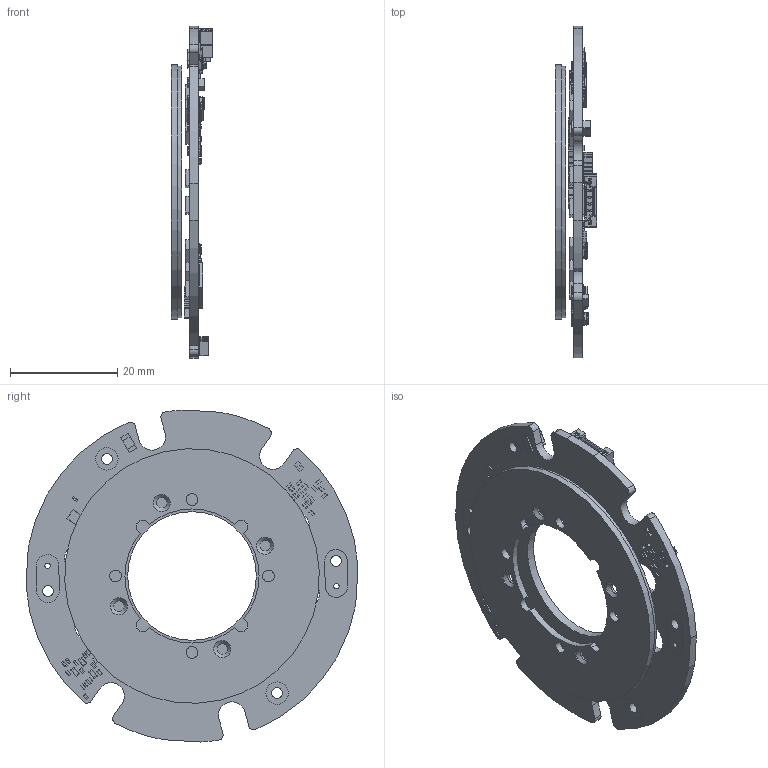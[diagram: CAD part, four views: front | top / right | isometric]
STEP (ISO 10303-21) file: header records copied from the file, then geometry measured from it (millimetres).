
FILE_DESCRIPTION(/* description */ (''),/* implementation_level */ '2;1');
FILE_NAME(/* name */ 'EAS-100 20260722.stp',/* time_stamp */ '2026-07-22T11:15:10+08:00',/* author */ (''),/* organization */ (''),/* preprocessor_version */ 'ST-DEVELOPER v20',/* originating_system */ 'SIEMENS PLM Software NX2312.1700',/* authorisation */ '');
FILE_SCHEMA (('AP203_CONFIGURATION_CONTROLLED_3D_DESIGN_OF_MECHANICAL_PARTS_AND_ASSEMBLIES_MIM_LF { 1 0 10303 403 2 1 2}'));
Length unit declared in the file: millimetre
Products named in the file (1): EAS-100_EAS-101 20260721_objects
Bounding box: 7.66 x 61.91 x 61.91 mm (x, y, z)
Volume: 6018.4 mm3; surface area: 11216.1 mm2
Topology: 337 solids, 337 shells, 5534 faces, 13731 edges, 8707 vertices
Faces by surface type: plane 4268, cylinder 982, sphere 268, torus 12, cone 4
Full cylindrical faces by diameter (mm): 1 x2, 2 x8, 2.2 x4, 3.2 x4, 6 x4, 24 x1, 35 x1, 47 x1, 47.5 x1
Entity records: 162875 total; most frequent: CARTESIAN_POINT 27886, ORIENTED_EDGE 26958, DIRECTION 26521, EDGE_CURVE 13479, LINE 11483, VECTOR 11483, VERTEX_POINT 8696, AXIS2_PLACEMENT_3D 7519
